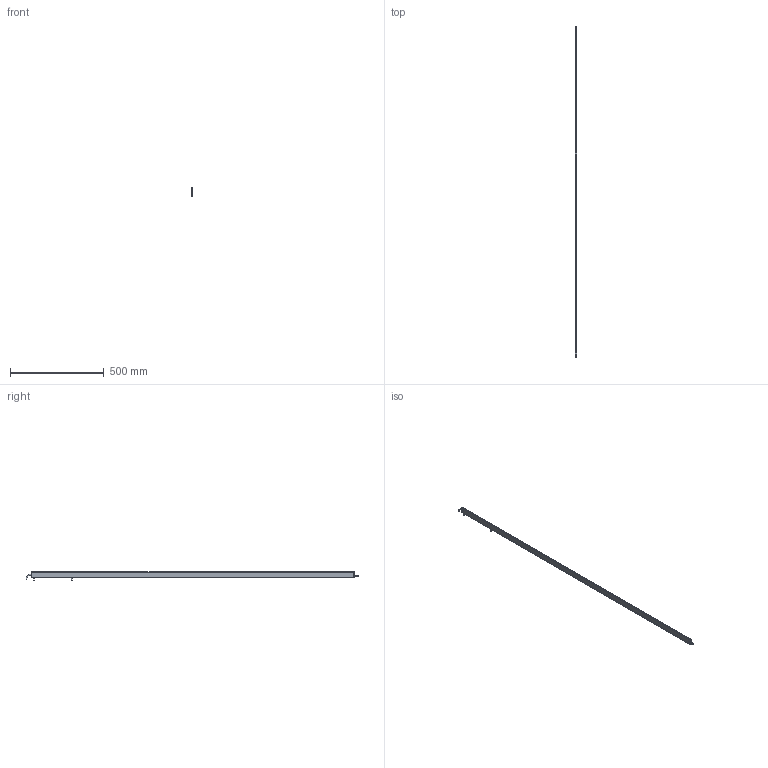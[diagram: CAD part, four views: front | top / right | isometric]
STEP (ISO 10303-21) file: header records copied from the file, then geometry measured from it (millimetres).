
FILE_DESCRIPTION (( 'STEP AP214' ), '1' );
FILE_NAME ('ILG-B-K1-1720mm.STEP', '2017-07-10T12:16:56', ( '' ), ( '' ), 'SwSTEP 2.0', 'SolidWorks 2016', '' );
FILE_SCHEMA (( 'AUTOMOTIVE_DESIGN' ));
Length unit declared in the file: millimetre
Products named in the file (1): ILG-B-K1-1720mm
Bounding box: 9 x 1768.25 x 46.21 mm (x, y, z)
Volume: 193277.9 mm3; surface area: 284889.8 mm2
Topology: 11 solids, 11 shells, 453 faces, 1150 edges, 724 vertices
Faces by surface type: plane 216, cylinder 152, cone 73, torus 12
Entity records: 18769 total; most frequent: CARTESIAN_POINT 2540, DIRECTION 2424, ORIENTED_EDGE 2284, EDGE_CURVE 1142, AXIS2_PLACEMENT_3D 896, VERTEX_POINT 724, LINE 632, VECTOR 632
